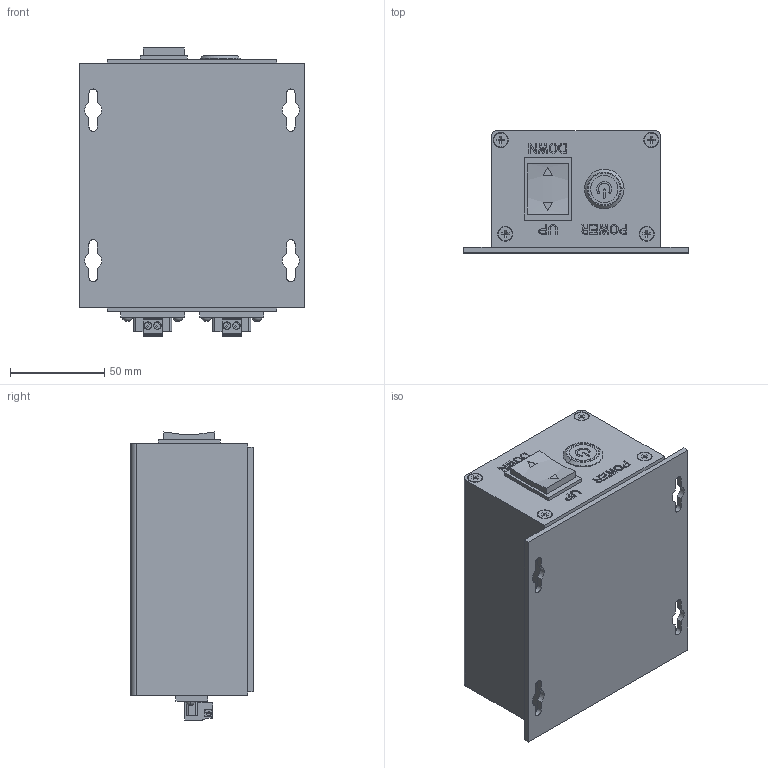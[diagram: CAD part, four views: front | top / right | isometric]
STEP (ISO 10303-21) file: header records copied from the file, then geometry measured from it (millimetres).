
FILE_DESCRIPTION((''),'2;1');
FILE_NAME('IDS-A','2021-12-22T',('Administrator'),(''),'PRO/ENGINEER BY PARAMETRIC TECHNOLOGY CORPORATION, 2011490','PRO/ENGINEER BY PARAMETRIC TECHNOLOGY CORPORATION, 2011490','');
FILE_SCHEMA(('CONFIG_CONTROL_DESIGN'));
Length unit declared in the file: millimetre
Products named in the file (1): IDS-A
Bounding box: 119.6 x 65 x 153 mm (x, y, z)
Volume: 803234.4 mm3; surface area: 64311 mm2
Topology: 1 solids, 1 shells, 1194 faces, 3214 edges, 2122 vertices
Faces by surface type: plane 929, cylinder 195, torus 28, cone 18, bspline 16, sphere 8
Entity records: 38132 total; most frequent: CARTESIAN_POINT 7914, ORIENTED_EDGE 6428, DIRECTION 5990, EDGE_CURVE 3214, VECTOR 2466, LINE 2466, VERTEX_POINT 2122, AXIS2_PLACEMENT_3D 1762
